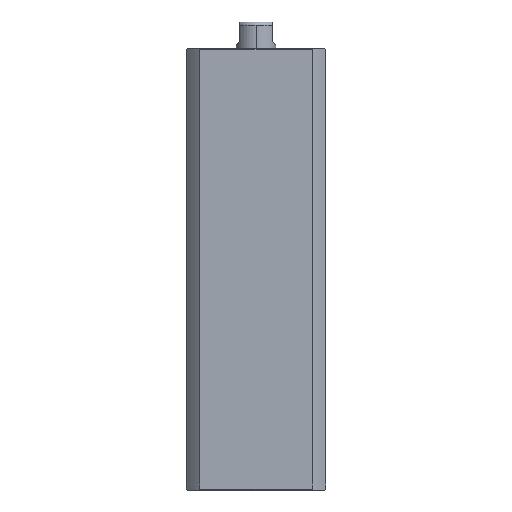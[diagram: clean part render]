
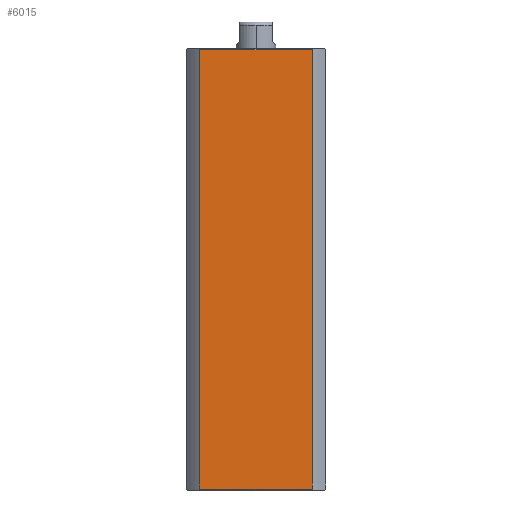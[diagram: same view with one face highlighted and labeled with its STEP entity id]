
A CAD part, left-side view. The second image highlights one B-rep face of the part: STEP entity #6015.
In plain terms, the highlighted planar face has unit normal (-1, 0, 0).
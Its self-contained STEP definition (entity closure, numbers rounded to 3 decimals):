
#980 = ORIENTED_EDGE ( 'NONE', *, *, #5326, .T. ) ;
#1333 = CARTESIAN_POINT ( 'NONE',  ( -21., -16.971, -117. ) ) ;
#1409 = EDGE_LOOP ( 'NONE', ( #7354, #980, #8513, #11153 ) ) ;
#1560 = PLANE ( 'NONE',  #11310 ) ;
#2068 = VERTEX_POINT ( 'NONE', #4821 ) ;
#2953 = CARTESIAN_POINT ( 'NONE',  ( -21., 21., 0.3 ) ) ;
#3227 = LINE ( 'NONE', #1333, #8058 ) ;
#3329 = CARTESIAN_POINT ( 'NONE',  ( -21., 21., 133. ) ) ;
#3357 = DIRECTION ( 'NONE',  ( 1., 0., 0. ) ) ;
#3586 = DIRECTION ( 'NONE',  ( 0., 1., 0. ) ) ;
#4127 = CARTESIAN_POINT ( 'NONE',  ( -21., -16.971, 0.3 ) ) ;
#4821 = CARTESIAN_POINT ( 'NONE',  ( -21., 16.971, 0.3 ) ) ;
#4843 = CARTESIAN_POINT ( 'NONE',  ( -21., 16.971, 132.7 ) ) ;
#5168 = CARTESIAN_POINT ( 'NONE',  ( -21., 16.971, -117. ) ) ;
#5326 = EDGE_CURVE ( 'NONE', #2068, #5935, #6134, .T. ) ;
#5935 = VERTEX_POINT ( 'NONE', #4127 ) ;
#6015 = ADVANCED_FACE ( 'NONE', ( #7253 ), #1560, .F. ) ;
#6134 = LINE ( 'NONE', #2953, #8558 ) ;
#6615 = CARTESIAN_POINT ( 'NONE',  ( -21., -16.971, 132.7 ) ) ;
#6790 = VECTOR ( 'NONE', #3586, 1000. ) ;
#7253 = FACE_OUTER_BOUND ( 'NONE', #1409, .T. ) ;
#7354 = ORIENTED_EDGE ( 'NONE', *, *, #8809, .F. ) ;
#7638 = VECTOR ( 'NONE', #7910, 1000. ) ;
#7661 = VERTEX_POINT ( 'NONE', #4843 ) ;
#7670 = DIRECTION ( 'NONE',  ( 0., 0., -1. ) ) ;
#7910 = DIRECTION ( 'NONE',  ( 0., 0., 1. ) ) ;
#8058 = VECTOR ( 'NONE', #7670, 1000. ) ;
#8399 = DIRECTION ( 'NONE',  ( 0., -1., 0. ) ) ;
#8513 = ORIENTED_EDGE ( 'NONE', *, *, #9374, .F. ) ;
#8558 = VECTOR ( 'NONE', #8399, 1000. ) ;
#8809 = EDGE_CURVE ( 'NONE', #2068, #7661, #10304, .T. ) ;
#9003 = EDGE_CURVE ( 'NONE', #9296, #7661, #9182, .T. ) ;
#9037 = CARTESIAN_POINT ( 'NONE',  ( -21., 21., 132.7 ) ) ;
#9182 = LINE ( 'NONE', #9037, #6790 ) ;
#9296 = VERTEX_POINT ( 'NONE', #6615 ) ;
#9374 = EDGE_CURVE ( 'NONE', #9296, #5935, #3227, .T. ) ;
#9722 = DIRECTION ( 'NONE',  ( 0., 1., 0. ) ) ;
#10304 = LINE ( 'NONE', #5168, #7638 ) ;
#11153 = ORIENTED_EDGE ( 'NONE', *, *, #9003, .T. ) ;
#11310 = AXIS2_PLACEMENT_3D ( 'NONE', #3329, #3357, #9722 ) ;
